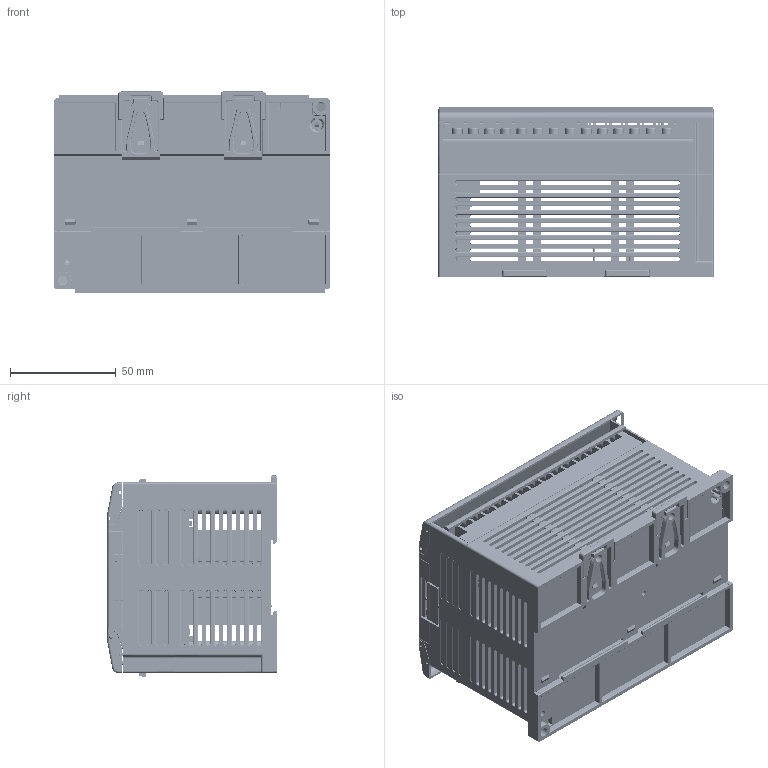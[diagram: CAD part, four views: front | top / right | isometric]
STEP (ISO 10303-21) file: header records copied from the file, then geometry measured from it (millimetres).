
FILE_DESCRIPTION(/* description */ (''),/* implementation_level */ '2;1');
FILE_NAME(/* name */ 'FB4F17~1',/* time_stamp */ '2021-06-10T11:40:15+08:00',/* author */ (''),/* organization */ (''),/* preprocessor_version */ 'ST-DEVELOPER v16.5',/* originating_system */ '',/* authorisation */ '');
FILE_SCHEMA (('CONFIG_CONTROL_DESIGN'));
Products named in the file (1): Document
Bounding box: 130 x 80.15 x 94.9 mm (x, y, z)
Surface area: 187946.9 mm2 (no closed solid volume)
Topology: 0 solids, 4991 shells, 4997 faces, 26184 edges, 26171 vertices
Faces by surface type: plane 3022, cylinder 1382, bspline 593
Entity records: 315785 total; most frequent: CARTESIAN_POINT 138639, ORIENTED_EDGE 26186, EDGE_CURVE 26180, VERTEX_POINT 26171, B_SPLINE_CURVE_WITH_KNOTS 20324, EDGE_LOOP 5405, ADVANCED_FACE 4997, FACE_OUTER_BOUND 4997
